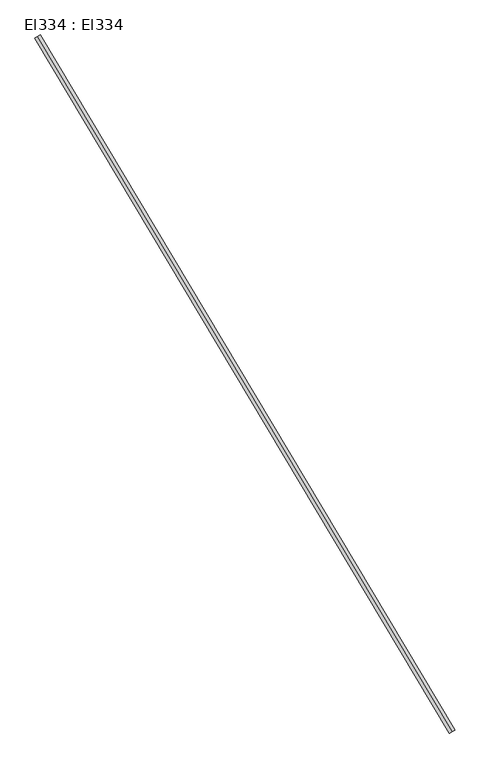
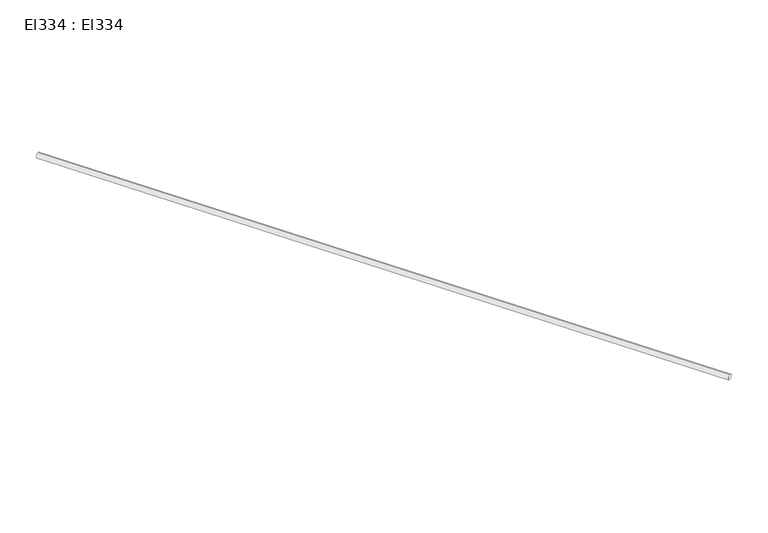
"""IFC4 building model written with IfcOpenShell, lengths in millimetres: cable carrier segment geometry, El334 : El334."""

from ifc_helpers import new_model, si_unit, point, frame, frame_2d, origin, place, context, project, spatial, circle_curve, trimmed, segment, composite_curve, outline, extrude, source, transform, mapped, element, save


def el334_el334_5a092332(model_context):
    return source(origin(), model_context, "Body", "SweptSolid", [
        extrude(outline(composite_curve([segment(trimmed(circle_curve(frame_2d((0.0, -9.5)), 9.5), [point((0.0, -19.0))], [point((0.0, 0.0))], False, "CARTESIAN"), True, "CONTINUOUS"), segment(trimmed(circle_curve(frame_2d((0.0, -9.5)), 9.5), [point((0.0, 0.0))], [point((0.0, -19.0))], False, "CARTESIAN"), True, "CONTINUOUS")], self_intersect=False)), frame((11283.9046407, 12161.6735901, 2959.5), z_axis=(-0.5122778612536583, 0.8588197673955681, 0.0), x_axis=(-0.8588197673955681, -0.5122778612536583, 0.0)), (0.0, 0.0, 1.0), 2424.09),
    ])


if __name__ == "__main__":
    model = new_model("IFC4")
    model_context = context("Model", 3, world=origin())
    ifc_project = project(units=[si_unit("LENGTHUNIT", "METRE", prefix="MILLI")], contexts=[model_context])
    site = spatial("IfcSite", under=ifc_project)
    building = spatial("IfcBuilding", under=site)
    placement = place(None, origin())
    el334_el334_shape = el334_el334_5a092332(model_context)
    element("IfcCableCarrierSegment", 1, ObjectType="El334 : El334", at=placement, inside=building, context=model_context, shape_type="MappedRepresentation", body=[
        mapped(el334_el334_shape, transform((0.0, 0.0, 0.0), x_axis=(1.0, 0.0, 0.0), y_axis=(0.0, 1.0, 0.0), z_axis=(0.0, 0.0, 1.0))),
    ])
    save(model, "model.ifc")
